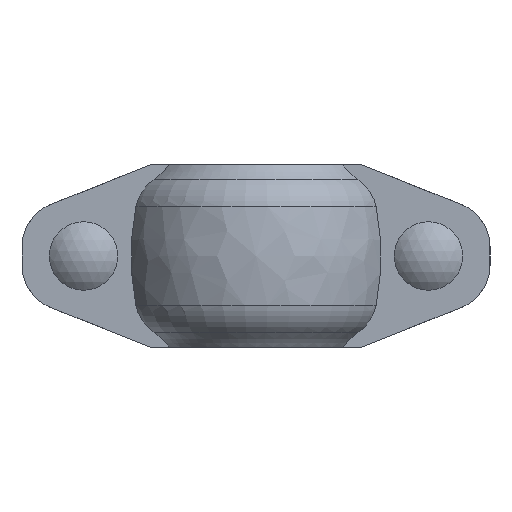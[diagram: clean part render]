
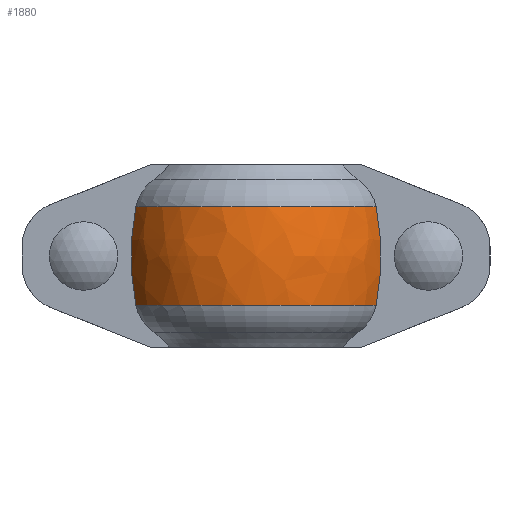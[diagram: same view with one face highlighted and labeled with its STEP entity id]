
A CAD part, front view. The second image highlights one B-rep face of the part: STEP entity #1880.
In plain terms, the highlighted free-form (B-spline) face has degree [2, 2] with [3, 5] control points.
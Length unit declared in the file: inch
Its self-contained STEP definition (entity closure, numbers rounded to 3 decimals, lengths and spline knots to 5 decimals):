
#27=(
BOUNDED_SURFACE()
B_SPLINE_SURFACE(2,2,((#3365,#3366,#3367,#3368,#3369),(#3370,#3371,#3372,
#3373,#3374),(#3375,#3376,#3377,#3378,#3379)),.UNSPECIFIED.,.F.,.F.,.F.)
B_SPLINE_SURFACE_WITH_KNOTS((3,3),(3,2,3),(-0.18099,0.18099),
(0.4188,1.5708,2.72279),.UNSPECIFIED.)
GEOMETRIC_REPRESENTATION_ITEM()
RATIONAL_B_SPLINE_SURFACE(((1.,0.839,1.,0.839,1.),
(0.984,0.825,0.984,0.825,
0.984),(1.,0.839,1.,0.839,1.)))
REPRESENTATION_ITEM('')
SURFACE()
);
#62=B_SPLINE_CURVE_WITH_KNOTS('',3,(#3112,#3113,#3114,#3115,#3116,#3117,
#3118,#3119,#3120,#3121),.UNSPECIFIED.,.F.,.F.,(4,2,2,2,4),(5.25946,
5.77581,6.57245,7.36908,7.88543),
 .UNSPECIFIED.);
#72=B_SPLINE_CURVE_WITH_KNOTS('',3,(#3234,#3235,#3236,#3237,#3238,#3239,
#3240,#3241,#3242,#3243),.UNSPECIFIED.,.F.,.F.,(4,2,2,2,4),(18.40435,
18.9207,19.71734,20.51397,21.03032),
 .UNSPECIFIED.);
#236=FACE_OUTER_BOUND('',#341,.T.);
#341=EDGE_LOOP('',(#1665,#1666,#1667,#1668));
#696=CIRCLE('',#2096,1.451);
#701=CIRCLE('',#2107,1.451);
#855=VERTEX_POINT('',#3098);
#856=VERTEX_POINT('',#3111);
#870=VERTEX_POINT('',#3220);
#871=VERTEX_POINT('',#3233);
#1097=EDGE_CURVE('',#856,#855,#62,.T.);
#1118=EDGE_CURVE('',#871,#870,#72,.T.);
#1137=EDGE_CURVE('',#871,#855,#696,.T.);
#1142=EDGE_CURVE('',#870,#856,#701,.T.);
#1665=ORIENTED_EDGE('',*,*,#1097,.T.);
#1666=ORIENTED_EDGE('',*,*,#1137,.F.);
#1667=ORIENTED_EDGE('',*,*,#1118,.T.);
#1668=ORIENTED_EDGE('',*,*,#1142,.T.);
#1880=ADVANCED_FACE('',(#236),#27,.F.);
#2096=AXIS2_PLACEMENT_3D('',#3353,#2588,#2589);
#2107=AXIS2_PLACEMENT_3D('',#3364,#2610,#2611);
#2588=DIRECTION('center_axis',(0.,0.,-1.));
#2589=DIRECTION('ref_axis',(1.,0.,0.));
#2610=DIRECTION('center_axis',(0.,0.,-1.));
#2611=DIRECTION('ref_axis',(1.,0.,0.));
#3098=CARTESIAN_POINT('',(1.31655,0.61,-0.54));
#3111=CARTESIAN_POINT('',(1.31655,0.61,0.54));
#3112=CARTESIAN_POINT('Ctrl Pts',(1.31655,0.61,0.54));
#3113=CARTESIAN_POINT('Ctrl Pts',(1.33105,0.61,0.46809));
#3114=CARTESIAN_POINT('Ctrl Pts',(1.34256,0.61,0.39589));
#3115=CARTESIAN_POINT('Ctrl Pts',(1.36429,0.61,0.21373));
#3116=CARTESIAN_POINT('Ctrl Pts',(1.37036,0.61,0.10455));
#3117=CARTESIAN_POINT('Ctrl Pts',(1.37036,0.61,-0.10455));
#3118=CARTESIAN_POINT('Ctrl Pts',(1.36429,0.61,-0.21373));
#3119=CARTESIAN_POINT('Ctrl Pts',(1.34256,0.61,-0.39589));
#3120=CARTESIAN_POINT('Ctrl Pts',(1.33105,0.61,-0.46809));
#3121=CARTESIAN_POINT('Ctrl Pts',(1.31655,0.61,-0.54));
#3220=CARTESIAN_POINT('',(-1.31655,0.61,0.54));
#3233=CARTESIAN_POINT('',(-1.31655,0.61,-0.54));
#3234=CARTESIAN_POINT('Ctrl Pts',(-1.31655,0.61,-0.54));
#3235=CARTESIAN_POINT('Ctrl Pts',(-1.33105,0.61,-0.46809));
#3236=CARTESIAN_POINT('Ctrl Pts',(-1.34256,0.61,-0.39589));
#3237=CARTESIAN_POINT('Ctrl Pts',(-1.36429,0.61,-0.21373));
#3238=CARTESIAN_POINT('Ctrl Pts',(-1.37036,0.61,-0.10455));
#3239=CARTESIAN_POINT('Ctrl Pts',(-1.37036,0.61,0.10455));
#3240=CARTESIAN_POINT('Ctrl Pts',(-1.36429,0.61,0.21373));
#3241=CARTESIAN_POINT('Ctrl Pts',(-1.34256,0.61,0.39589));
#3242=CARTESIAN_POINT('Ctrl Pts',(-1.33105,0.61,0.46809));
#3243=CARTESIAN_POINT('Ctrl Pts',(-1.31655,0.61,0.54));
#3353=CARTESIAN_POINT('Origin',(0.,0.,-0.54));
#3364=CARTESIAN_POINT('Origin',(0.,0.,0.54));
#3365=CARTESIAN_POINT('Ctrl Pts',(-1.3256,0.59007,0.54));
#3366=CARTESIAN_POINT('Ctrl Pts',(-0.94237,1.451,0.54));
#3367=CARTESIAN_POINT('Ctrl Pts',(0.,1.451,0.54));
#3368=CARTESIAN_POINT('Ctrl Pts',(0.94237,1.451,0.54));
#3369=CARTESIAN_POINT('Ctrl Pts',(1.3256,0.59007,0.54));
#3370=CARTESIAN_POINT('Ctrl Pts',(-1.41587,0.63026,0.));
#3371=CARTESIAN_POINT('Ctrl Pts',(-1.00655,1.54981,0.));
#3372=CARTESIAN_POINT('Ctrl Pts',(0.,1.54981,0.));
#3373=CARTESIAN_POINT('Ctrl Pts',(1.00655,1.54981,0.));
#3374=CARTESIAN_POINT('Ctrl Pts',(1.41587,0.63026,0.));
#3375=CARTESIAN_POINT('Ctrl Pts',(-1.3256,0.59007,-0.54));
#3376=CARTESIAN_POINT('Ctrl Pts',(-0.94237,1.451,-0.54));
#3377=CARTESIAN_POINT('Ctrl Pts',(0.,1.451,-0.54));
#3378=CARTESIAN_POINT('Ctrl Pts',(0.94237,1.451,-0.54));
#3379=CARTESIAN_POINT('Ctrl Pts',(1.3256,0.59007,-0.54));
